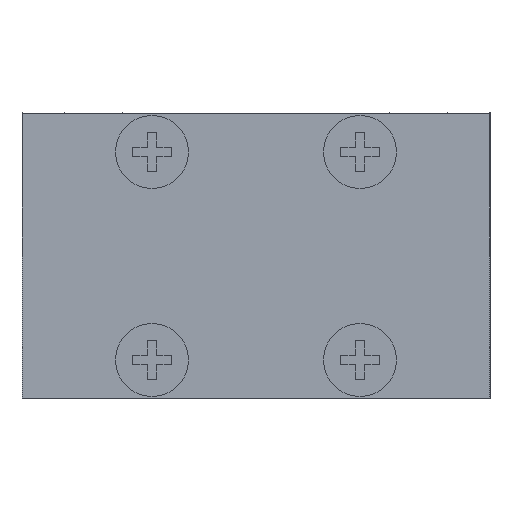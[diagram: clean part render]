
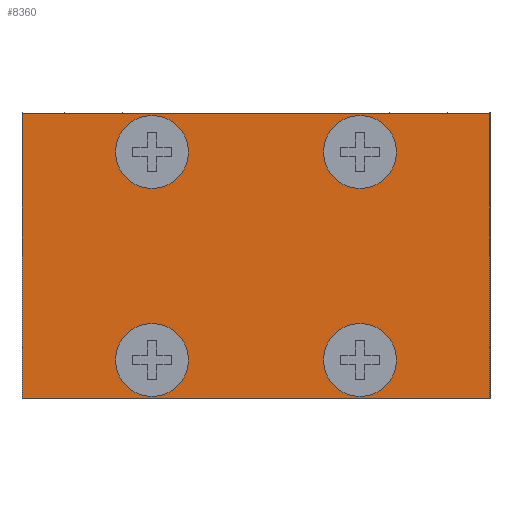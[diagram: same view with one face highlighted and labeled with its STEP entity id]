
A CAD part, left-side view. The second image highlights one B-rep face of the part: STEP entity #8360.
In plain terms, the highlighted planar face has unit normal (-1, 0, 0).
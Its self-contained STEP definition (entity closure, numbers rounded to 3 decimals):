
#294=CIRCLE('',#8634,2.8);
#296=CIRCLE('',#8651,2.8);
#298=CIRCLE('',#8668,2.8);
#300=CIRCLE('',#8685,2.8);
#1022=ORIENTED_EDGE('',*,*,#2226,.T.);
#1023=ORIENTED_EDGE('',*,*,#2302,.T.);
#1024=ORIENTED_EDGE('',*,*,#2317,.T.);
#1025=ORIENTED_EDGE('',*,*,#2313,.T.);
#1026=ORIENTED_EDGE('',*,*,#2307,.F.);
#1027=ORIENTED_EDGE('',*,*,#2315,.F.);
#1028=ORIENTED_EDGE('',*,*,#2264,.T.);
#1029=ORIENTED_EDGE('',*,*,#2188,.T.);
#2188=EDGE_CURVE('',#3097,#3097,#294,.T.);
#2226=EDGE_CURVE('',#3123,#3123,#296,.T.);
#2264=EDGE_CURVE('',#3149,#3149,#298,.T.);
#2302=EDGE_CURVE('',#3175,#3175,#300,.T.);
#2307=EDGE_CURVE('',#3180,#3181,#3957,.T.);
#2313=EDGE_CURVE('',#3184,#3181,#3963,.T.);
#2315=EDGE_CURVE('',#3187,#3180,#3965,.T.);
#2317=EDGE_CURVE('',#3187,#3184,#3967,.T.);
#3097=VERTEX_POINT('',#10713);
#3123=VERTEX_POINT('',#10792);
#3149=VERTEX_POINT('',#10871);
#3175=VERTEX_POINT('',#10950);
#3180=VERTEX_POINT('',#10965);
#3181=VERTEX_POINT('',#10966);
#3184=VERTEX_POINT('',#10974);
#3187=VERTEX_POINT('',#10981);
#3957=LINE('',#10964,#4685);
#3963=LINE('',#10977,#4691);
#3965=LINE('',#10982,#4693);
#3967=LINE('',#10985,#4695);
#4685=VECTOR('',#9493,1000.);
#4691=VECTOR('',#9501,1000.);
#4693=VECTOR('',#9505,1000.);
#4695=VECTOR('',#9509,1000.);
#5277=EDGE_LOOP('',(#1022));
#5278=EDGE_LOOP('',(#1023));
#5279=EDGE_LOOP('',(#1024,#1025,#1026,#1027));
#5280=EDGE_LOOP('',(#1028));
#5281=EDGE_LOOP('',(#1029));
#5682=FACE_BOUND('',#5277,.T.);
#5683=FACE_BOUND('',#5278,.T.);
#5684=FACE_BOUND('',#5279,.T.);
#5685=FACE_BOUND('',#5280,.T.);
#5686=FACE_BOUND('',#5281,.T.);
#6045=PLANE('',#8697);
#8360=ADVANCED_FACE('',(#5682,#5683,#5684,#5685,#5686),#6045,.T.);
#8634=AXIS2_PLACEMENT_3D('',#10712,#9263,#9264);
#8651=AXIS2_PLACEMENT_3D('',#10791,#9333,#9334);
#8668=AXIS2_PLACEMENT_3D('',#10870,#9403,#9404);
#8685=AXIS2_PLACEMENT_3D('',#10949,#9473,#9474);
#8697=AXIS2_PLACEMENT_3D('',#10984,#9507,#9508);
#9263=DIRECTION('',(1.,0.,0.));
#9264=DIRECTION('',(0.,1.,0.));
#9333=DIRECTION('',(1.,0.,0.));
#9334=DIRECTION('',(0.,1.,0.));
#9403=DIRECTION('',(1.,0.,0.));
#9404=DIRECTION('',(0.,1.,0.));
#9473=DIRECTION('',(1.,0.,0.));
#9474=DIRECTION('',(0.,1.,0.));
#9493=DIRECTION('',(0.,-1.,0.));
#9501=DIRECTION('',(0.,0.,1.));
#9505=DIRECTION('',(0.,0.,1.));
#9507=DIRECTION('',(-1.,0.,0.));
#9508=DIRECTION('',(0.,-1.,0.));
#9509=DIRECTION('',(0.,-1.,0.));
#10712=CARTESIAN_POINT('',(-76.,8.,8.));
#10713=CARTESIAN_POINT('',(-76.,10.8,8.));
#10791=CARTESIAN_POINT('',(-76.,8.,-8.));
#10792=CARTESIAN_POINT('',(-76.,10.8,-8.));
#10870=CARTESIAN_POINT('',(-76.,-8.,8.));
#10871=CARTESIAN_POINT('',(-76.,-5.2,8.));
#10949=CARTESIAN_POINT('',(-76.,-8.,-8.));
#10950=CARTESIAN_POINT('',(-76.,-5.2,-8.));
#10964=CARTESIAN_POINT('',(-76.,18.,11.));
#10965=CARTESIAN_POINT('',(-76.,18.,11.));
#10966=CARTESIAN_POINT('',(-76.,-18.,11.));
#10974=CARTESIAN_POINT('',(-76.,-18.,-11.));
#10977=CARTESIAN_POINT('',(-76.,-18.,-11.));
#10981=CARTESIAN_POINT('',(-76.,18.,-11.));
#10982=CARTESIAN_POINT('',(-76.,18.,-11.));
#10984=CARTESIAN_POINT('',(-76.,18.,-11.));
#10985=CARTESIAN_POINT('',(-76.,18.,-11.));
